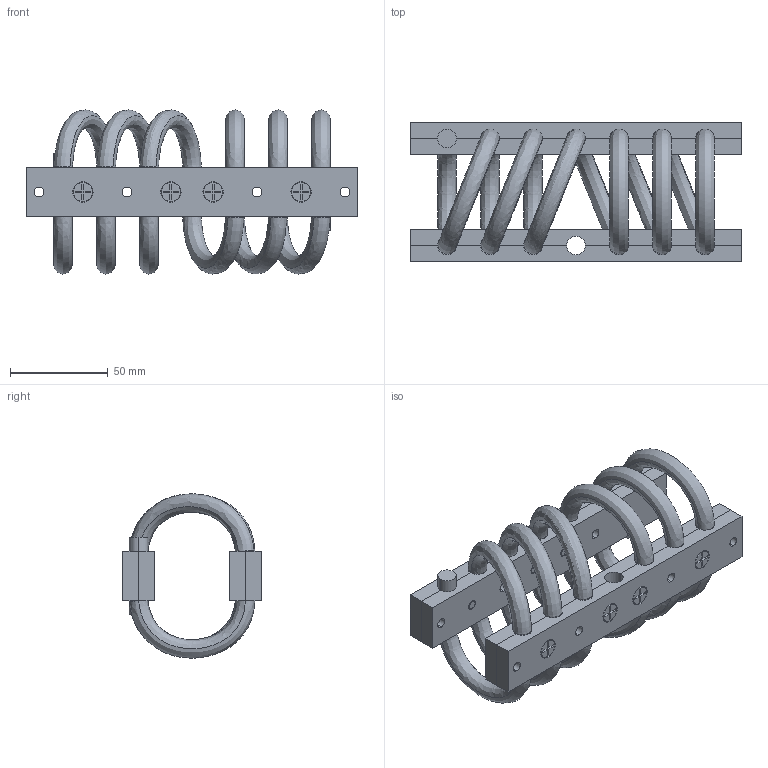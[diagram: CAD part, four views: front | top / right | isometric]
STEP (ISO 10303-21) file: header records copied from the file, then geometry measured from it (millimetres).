
FILE_DESCRIPTION (( 'STEP AP214' ), '1' );
FILE_NAME ('WR12-206-6DM.STEP', '2018-12-07T09:59:55', ( 'user' ), ( 'Microsoft' ), 'SwSTEP 2.0', 'SolidWorks 2016', '' );
FILE_SCHEMA (( 'AUTOMOTIVE_DESIGN' ));
Length unit declared in the file: millimetre
Products named in the file (1): WR12-206-6DM
Bounding box: 169.2 x 71 x 83.98 mm (x, y, z)
Volume: 215667.8 mm3; surface area: 100967.9 mm2
Topology: 26 solids, 26 shells, 484 faces, 1180 edges, 772 vertices
Faces by surface type: plane 216, cylinder 194, cone 48, bspline 26
Entity records: 26056 total; most frequent: CARTESIAN_POINT 13558, ORIENTED_EDGE 2360, DIRECTION 2348, EDGE_CURVE 1180, AXIS2_PLACEMENT_3D 843, VERTEX_POINT 772, LINE 662, VECTOR 662
